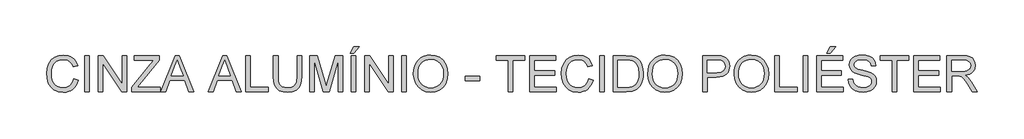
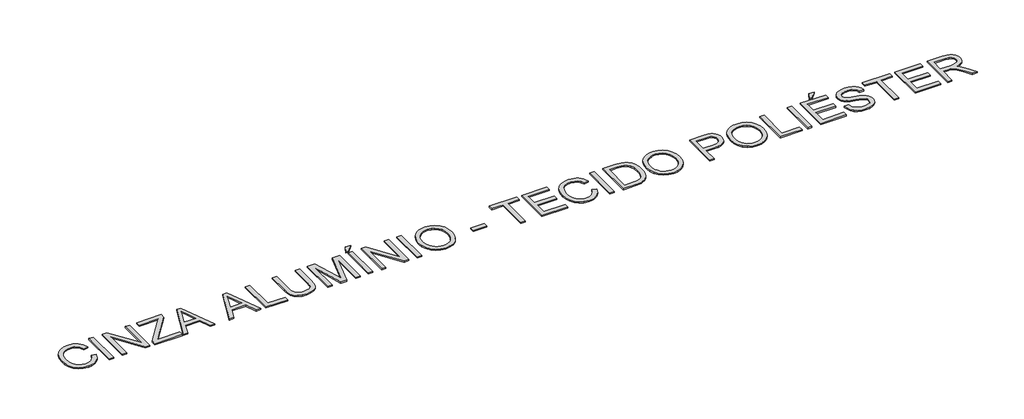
# One storey, part 44 of 67: 1 proxy.
"""IFC4 building model written with IfcOpenShell, lengths in millimetres."""

from ifc_helpers import new_model, si_unit, origin, origin_with_axes, place, context, project, spatial, polyline, outline, extrude, element, save

model = new_model("IFC4")

# Units and contexts
model_context = context("Model", 3, world=origin())
ifc_project = project(units=[si_unit("LENGTHUNIT", "METRE", prefix="MILLI")], contexts=[model_context])

# Site, building, storey
site = spatial("IfcSite", under=ifc_project)
building = spatial("IfcBuilding", under=site)
storey = spatial("IfcBuildingStorey", under=building, Name="Marelli - Linha COLAB - Planta Baixa", Elevation=0.0)

# Proxy
placement = place(None, origin())
element("IfcBuildingElementProxy", 1, Name="300mm Arial", ObjectType="300mm Arial", at=placement, inside=storey, context=model_context, shape_type="SweptSolid", body=[
    extrude(outline(polyline([(4910.271622, -62423.4390831), (4947.9427383, -62433.1511677), (4940.4885294, -62456.5783531), (4930.560314, -62477.0486868), (4918.1580922, -62494.5621691), (4903.2818641, -62509.1187997), (4886.2673218, -62520.5622291), (4867.4501577, -62528.7361071), (4846.8303719, -62533.640434), (4824.4079643, -62535.2752096), (4780.7127803, -62530.3271968), (4746.0123111, -62515.4831583), (4719.4144429, -62491.2581289), (4700.0270617, -62458.1671434), (4688.1904585, -62419.2636224), (4684.2449241, -62377.6009865), (4688.7054933, -62333.6574821), (4702.0872009, -62295.7104543), (4723.6910711, -62264.9647166), (4752.818128, -62242.6250824), (4787.3622474, -62229.0226457), (4825.2173047, -62224.4885001), (4866.5212557, -62230.3562179), (4884.4899919, -62237.6908652), (4900.6699019, -62247.9593714), (4914.7942713, -62260.8904235), (4926.5963855, -62276.2127086), (4943.2338487, -62314.0309777), (4905.5627324, -62323.0072984), (4892.5029216, -62295.5357104), (4874.6606448, -62276.6909552), (4851.8151729, -62265.7924511), (4823.7457767, -62262.1596164), (4791.3905552, -62266.1879242), (4764.8110811, -62278.2728478), (4744.6419507, -62297.1451941), (4731.5177605, -62321.5357704), (4724.3164705, -62349.1085259), (4721.9160404, -62377.5274101), (4724.7579289, -62412.3290468), (4733.2835941, -62442.421794), (4747.8149329, -62466.6560205), (4768.673842, -62483.8820949), (4793.6806207, -62494.1735937), (4820.6555679, -62497.6040933), (4852.1002815, -62492.931992), (4878.3026766, -62478.9156879), (4898.0855309, -62455.702334), (4910.271622, -62423.4390831)])), origin_with_axes(), (0.0, 0.0, 1.0), 10.0),
    extrude(outline(polyline([(5004.4494127, -62530.5663201), (5004.4494127, -62229.1973896), (5042.120529, -62229.1973896), (5042.120529, -62530.5663201), (5004.4494127, -62530.5663201)])), origin_with_axes(), (0.0, 0.0, 1.0), 10.0),
    extrude(outline(polyline([(5117.4627617, -62530.5663201), (5117.4627617, -62229.1973896), (5157.7826283, -62229.1973896), (5315.2361223, -62467.9528045), (5315.2361223, -62229.1973896), (5352.9072386, -62229.1973896), (5352.9072386, -62530.5663201), (5312.5873719, -62530.5663201), (5155.133878, -62291.7373288), (5155.133878, -62530.5663201), (5117.4627617, -62530.5663201)])), origin_with_axes(), (0.0, 0.0, 1.0), 10.0),
    extrude(outline(polyline([(5395.2872444, -62530.5663201), (5395.2872444, -62491.4972522), (5549.4298004, -62302.7737887), (5578.7132072, -62266.8685059), (5414.1228026, -62266.8685059), (5414.1228026, -62229.1973896), (5626.0228318, -62229.1973896), (5626.0228318, -62266.8685059), (5457.3121488, -62473.397458), (5441.4196466, -62492.8952038), (5630.7317213, -62492.8952038), (5630.7317213, -62530.5663201), (5395.2872444, -62530.5663201)])), origin_with_axes(), (0.0, 0.0, 1.0), 10.0),
    extrude(outline(polyline([(5638.0157848, -62530.5663201), (5758.3131973, -62229.1973896), (5790.3925072, -62229.1973896), (5910.6899197, -62530.5663201), (5870.8850878, -62530.5663201), (5836.3777566, -62436.3885293), (5712.2543715, -62436.3885293), (5677.8206167, -62530.5663201), (5638.0157848, -62530.5663201)]), holes=[polyline([(5726.0867345, -62398.717413), (5822.61897, -62398.717413), (5795.4692788, -62324.6259792), (5774.3528522, -62266.8685059), (5755.5908705, -62318.1512561), (5726.0867345, -62398.717413)])]), origin_with_axes(), (0.0, 0.0, 1.0), 10.0),
    extrude(outline(polyline([(6033.562506, -62530.5663201), (6153.8599185, -62229.1973896), (6185.9392284, -62229.1973896), (6306.2366409, -62530.5663201), (6266.431809, -62530.5663201), (6231.9244778, -62436.3885293), (6107.8010927, -62436.3885293), (6073.3673379, -62530.5663201), (6033.562506, -62530.5663201)]), holes=[polyline([(6121.6334557, -62398.717413), (6218.1656912, -62398.717413), (6191.016, -62324.6259792), (6169.8995735, -62266.8685059), (6151.1375917, -62318.1512561), (6121.6334557, -62398.717413)])]), origin_with_axes(), (0.0, 0.0, 1.0), 10.0),
    extrude(outline(polyline([(6346.4829311, -62530.5663201), (6346.4829311, -62229.1973896), (6384.1540475, -62229.1973896), (6384.1540475, -62492.8952038), (6534.8385127, -62492.8952038), (6534.8385127, -62530.5663201), (6346.4829311, -62530.5663201)])), origin_with_axes(), (0.0, 0.0, 1.0), 10.0),
    extrude(outline(polyline([(6774.9918791, -62229.1973896), (6812.6629954, -62229.1973896), (6812.6629954, -62403.0584205), (6810.1062156, -62443.7737604), (6802.435876, -62475.1265034), (6788.1068723, -62499.3147446), (6765.5741001, -62518.5365788), (6734.7823771, -62531.0905519), (6695.676521, -62535.2752096), (6657.4259905, -62531.6331779), (6626.8457997, -62520.7070826), (6603.9267514, -62502.8740029), (6588.6596486, -62478.5110178), (6580.078801, -62445.8338995), (6577.2185185, -62403.0584205), (6577.2185185, -62229.1973896), (6614.8896348, -62229.1973896), (6614.8896348, -62401.7340454), (6616.7474389, -62435.588386), (6622.3208511, -62459.1604248), (6632.4192119, -62475.4851883), (6647.8518616, -62487.597703), (6667.9750067, -62495.1024957), (6692.1448538, -62497.6040933), (6730.4597636, -62492.6560805), (6744.8025629, -62486.4710644), (6755.9355918, -62477.812042), (6764.2727175, -62465.6351479), (6770.2278073, -62448.8965171), (6774.9918791, -62401.7340454), (6774.9918791, -62229.1973896)])), origin_with_axes(), (0.0, 0.0, 1.0), 10.0),
    extrude(outline(polyline([(6878.587449, -62530.5663201), (6878.587449, -62229.1973896), (6943.4082565, -62229.1973896), (7005.0652789, -62441.6124536), (7017.4996903, -62485.9790223), (7030.9641714, -62437.9336337), (7091.5911242, -62229.1973896), (7156.4119317, -62229.1973896), (7156.4119317, -62530.5663201), (7118.7408154, -62530.5663201), (7118.7408154, -62266.8685059), (7043.0307008, -62530.5663201), (6991.9686799, -62530.5663201), (6916.2585653, -62266.8685059), (6916.2585653, -62530.5663201), (6878.587449, -62530.5663201)])), origin_with_axes(), (0.0, 0.0, 1.0), 10.0),
    extrude(outline(polyline([(7227.0452748, -62530.5663201), (7227.0452748, -62229.1973896), (7264.7163911, -62229.1973896), (7264.7163911, -62530.5663201), (7227.0452748, -62530.5663201)])), origin_with_axes(), (0.0, 0.0, 1.0), 10.0),
    extrude(outline(polyline([(7217.6274957, -62210.3618315), (7245.880833, -62153.855157), (7292.9697283, -62153.855157), (7245.880833, -62210.3618315), (7217.6274957, -62210.3618315)])), origin_with_axes(), (0.0, 0.0, 1.0), 10.0),
    extrude(outline(polyline([(7340.0586237, -62530.5663201), (7340.0586237, -62229.1973896), (7380.3784904, -62229.1973896), (7537.8319843, -62467.9528045), (7537.8319843, -62229.1973896), (7575.5031006, -62229.1973896), (7575.5031006, -62530.5663201), (7535.183234, -62530.5663201), (7377.72974, -62291.7373288), (7377.72974, -62530.5663201), (7340.0586237, -62530.5663201)])), origin_with_axes(), (0.0, 0.0, 1.0), 10.0),
    extrude(outline(polyline([(7646.1364437, -62530.5663201), (7646.1364437, -62229.1973896), (7683.80756, -62229.1973896), (7683.80756, -62530.5663201), (7646.1364437, -62530.5663201)])), origin_with_axes(), (0.0, 0.0, 1.0), 10.0),
    extrude(outline(polyline([(7745.023124, -62383.8549804), (7747.5339186, -62348.5061192), (7755.0663025, -62317.213157), (7767.6202756, -62289.9760937), (7785.1958379, -62266.7949295), (7806.7399272, -62248.2858666), (7831.1994814, -62235.0651074), (7858.5745003, -62227.1326519), (7888.8649841, -62224.4885001), (7928.3939045, -62229.454907), (7963.8393347, -62244.3541278), (7993.2698944, -62268.1376988), (8014.7542029, -62299.7571563), (8027.8875901, -62337.68579), (8032.2653858, -62380.3968896), (8027.6576639, -62423.6782064), (8013.8344979, -62462.140269), (7991.5592431, -62493.8149087), (7961.5952546, -62516.733957), (7926.453327, -62530.6398965), (7888.6442549, -62535.2752096), (7848.5083293, -62530.1524528), (7812.8605639, -62514.7841825), (7783.5035807, -62490.5591531), (7762.2400014, -62458.8661192), (7749.3273434, -62422.3998164), (7745.023124, -62383.8549804)]), holes=[polyline([(7782.6942403, -62384.2228624), (7784.5773363, -62409.1974513), (7790.2266242, -62431.3669401), (7799.642104, -62450.7313286), (7812.8237757, -62467.2906169), (7828.8473359, -62480.5527628), (7846.7884809, -62490.0257242), (7866.6472109, -62495.709501), (7888.4235257, -62497.6040933), (7910.5723211, -62495.6911069), (7930.6655758, -62489.9521478), (7948.7032899, -62480.3872159), (7964.6854633, -62466.9963113), (7977.770566, -62450.0875351), (7987.117068, -62429.9689885), (7992.7249691, -62406.6406715), (7994.5942695, -62380.102584), (7991.3936962, -62346.7540812), (7981.7919761, -62317.9305269), (7966.0374297, -62294.358488), (7944.3783772, -62276.7645316), (7918.2495585, -62265.8108452), (7889.0857133, -62262.1596164), (7868.0658558, -62263.9185522), (7848.5635116, -62269.1953595), (7830.5786805, -62277.9900385), (7814.1113627, -62290.302589), (7800.3663717, -62306.7262208), (7790.5485209, -62327.8541437), (7784.6578105, -62353.6863575), (7782.6942403, -62384.2228624)])]), origin_with_axes(), (0.0, 0.0, 1.0), 10.0),
    extrude(outline(polyline([(8178.2409615, -62441.0974188), (8178.2409615, -62403.4263025), (8295.9632, -62403.4263025), (8295.9632, -62441.0974188), (8178.2409615, -62441.0974188)])), origin_with_axes(), (0.0, 0.0, 1.0), 10.0),
    extrude(outline(polyline([(8536.1165664, -62530.5663201), (8536.1165664, -62266.8685059), (8437.2298861, -62266.8685059), (8437.2298861, -62229.1973896), (8672.674363, -62229.1973896), (8672.674363, -62266.8685059), (8573.7876827, -62266.8685059), (8573.7876827, -62530.5663201), (8536.1165664, -62530.5663201)])), origin_with_axes(), (0.0, 0.0, 1.0), 10.0),
    extrude(outline(polyline([(8715.0543689, -62530.5663201), (8715.0543689, -62229.1973896), (8931.6632877, -62229.1973896), (8931.6632877, -62266.8685059), (8752.7254852, -62266.8685059), (8752.7254852, -62356.3374072), (8922.2455086, -62356.3374072), (8922.2455086, -62394.0085235), (8752.7254852, -62394.0085235), (8752.7254852, -62492.8952038), (8936.3721772, -62492.8952038), (8936.3721772, -62530.5663201), (8715.0543689, -62530.5663201)])), origin_with_axes(), (0.0, 0.0, 1.0), 10.0),
    extrude(outline(polyline([(9204.7788809, -62423.4390831), (9242.4499972, -62433.1511677), (9234.9957882, -62456.5783531), (9225.0675729, -62477.0486868), (9212.6653511, -62494.5621691), (9197.789123, -62509.1187997), (9180.7745807, -62520.5622291), (9161.9574166, -62528.7361071), (9141.3376308, -62533.640434), (9118.9152232, -62535.2752096), (9075.2200392, -62530.3271968), (9040.51957, -62515.4831583), (9013.9217018, -62491.2581289), (8994.5343206, -62458.1671434), (8982.6977174, -62419.2636224), (8978.752183, -62377.6009865), (8983.2127522, -62333.6574821), (8996.5944598, -62295.7104543), (9018.19833, -62264.9647166), (9047.3253869, -62242.6250824), (9081.8695063, -62229.0226457), (9119.7245636, -62224.4885001), (9161.0285146, -62230.3562179), (9178.9972508, -62237.6908652), (9195.1771608, -62247.9593714), (9209.3015301, -62260.8904235), (9221.1036444, -62276.2127086), (9237.7411076, -62314.0309777), (9200.0699913, -62323.0072984), (9187.0101805, -62295.5357104), (9169.1679037, -62276.6909552), (9146.3224318, -62265.7924511), (9118.2530356, -62262.1596164), (9085.8978141, -62266.1879242), (9059.31834, -62278.2728478), (9039.1492096, -62297.1451941), (9026.0250194, -62321.5357704), (9018.8237294, -62349.1085259), (9016.4232993, -62377.5274101), (9019.2651878, -62412.3290468), (9027.790853, -62442.421794), (9042.3221918, -62466.6560205), (9063.1811009, -62483.8820949), (9088.1878795, -62494.1735937), (9115.1628268, -62497.6040933), (9146.6075404, -62492.931992), (9172.8099355, -62478.9156879), (9192.5927898, -62455.702334), (9204.7788809, -62423.4390831)])), origin_with_axes(), (0.0, 0.0, 1.0), 10.0),
    extrude(outline(polyline([(9298.9566716, -62530.5663201), (9298.9566716, -62229.1973896), (9336.6277879, -62229.1973896), (9336.6277879, -62530.5663201), (9298.9566716, -62530.5663201)])), origin_with_axes(), (0.0, 0.0, 1.0), 10.0),
    extrude(outline(polyline([(9411.9700206, -62530.5663201), (9411.9700206, -62229.1973896), (9515.9334724, -62229.1973896), (9569.7178201, -62233.5383972), (9593.7405144, -62241.9077126), (9614.0108123, -62255.0962821), (9634.8513273, -62278.0521186), (9649.6953658, -62306.5997614), (9658.579716, -62340.1873876), (9661.5411661, -62378.2631741), (9659.5362092, -62410.6091985), (9653.5213386, -62439.0740679), (9644.3610769, -62463.3082943), (9632.9199469, -62482.9623899), (9619.7497714, -62498.477813), (9605.4023736, -62510.2960221), (9588.9304573, -62519.0608107), (9569.3867263, -62525.4159721), (9520.9366675, -62530.5663201), (9411.9700206, -62530.5663201)]), holes=[polyline([(9449.6411369, -62492.8952038), (9516.3013544, -62492.8952038), (9543.8741099, -62491.5340404), (9564.7882014, -62487.4505502), (9580.5703389, -62480.8838566), (9592.747233, -62472.0730828), (9605.834635, -62455.7667134), (9615.6662813, -62434.6594839), (9621.8191077, -62408.6594239), (9623.8700498, -62377.6745629), (9619.850939, -62336.6189322), (9607.7936066, -62306.3054558), (9589.978921, -62285.4833349), (9568.6877505, -62272.9017706), (9547.019501, -62268.3768221), (9515.2712848, -62266.8685059), (9449.6411369, -62266.8685059), (9449.6411369, -62492.8952038)])]), origin_with_axes(), (0.0, 0.0, 1.0), 10.0),
    extrude(outline(polyline([(9699.2122824, -62383.8549804), (9701.723077, -62348.5061192), (9709.2554609, -62317.213157), (9721.8094339, -62289.9760937), (9739.3849963, -62266.7949295), (9760.9290856, -62248.2858666), (9785.3886398, -62235.0651074), (9812.7636587, -62227.1326519), (9843.0541425, -62224.4885001), (9882.5830629, -62229.454907), (9918.0284931, -62244.3541278), (9947.4590527, -62268.1376988), (9968.9433613, -62299.7571563), (9982.0767485, -62337.68579), (9986.4545442, -62380.3968896), (9981.8468222, -62423.6782064), (9968.0236563, -62462.140269), (9945.7484015, -62493.8149087), (9915.7844129, -62516.733957), (9880.6424854, -62530.6398965), (9842.8334133, -62535.2752096), (9802.6974876, -62530.1524528), (9767.0497223, -62514.7841825), (9737.6927391, -62490.5591531), (9716.4291598, -62458.8661192), (9703.5165017, -62422.3998164), (9699.2122824, -62383.8549804)]), holes=[polyline([(9736.8833987, -62384.2228624), (9738.7664947, -62409.1974513), (9744.4157825, -62431.3669401), (9753.8312624, -62450.7313286), (9767.0129341, -62467.2906169), (9783.0364943, -62480.5527628), (9800.9776393, -62490.0257242), (9820.8363693, -62495.709501), (9842.6126841, -62497.6040933), (9864.7614795, -62495.6911069), (9884.8547342, -62489.9521478), (9902.8924483, -62480.3872159), (9918.8746217, -62466.9963113), (9931.9597244, -62450.0875351), (9941.3062264, -62429.9689885), (9946.9141275, -62406.6406715), (9948.7834279, -62380.102584), (9945.5828546, -62346.7540812), (9935.9811345, -62317.9305269), (9920.226588, -62294.358488), (9898.5675356, -62276.7645316), (9872.4387169, -62265.8108452), (9843.2748717, -62262.1596164), (9822.2550142, -62263.9185522), (9802.7526699, -62269.1953595), (9784.7678389, -62277.9900385), (9768.3005211, -62290.302589), (9754.55553, -62306.7262208), (9744.7376793, -62327.8541437), (9738.8469688, -62353.6863575), (9736.8833987, -62384.2228624)])]), origin_with_axes(), (0.0, 0.0, 1.0), 10.0),
    extrude(outline(polyline([(10155.9745676, -62530.5663201), (10155.9745676, -62229.1973896), (10267.6635413, -62229.1973896), (10312.6922975, -62232.0668692), (10332.7694574, -62237.4287493), (10349.2965561, -62246.1567496), (10362.6046872, -62258.6463433), (10373.0249448, -62275.2930036), (10379.7571853, -62294.9287051), (10382.0012654, -62316.3854225), (10380.4860515, -62334.8852883), (10375.9404096, -62351.9044291), (10368.3643397, -62367.4428449), (10357.757842, -62381.5005356), (10343.1966127, -62393.1531978), (10323.7563485, -62401.476528), (10299.4370494, -62406.470526), (10270.2387153, -62408.1351921), (10193.6456839, -62408.1351921), (10193.6456839, -62530.5663201), (10155.9745676, -62530.5663201)]), holes=[polyline([(10193.6456839, -62370.4640758), (10272.4460073, -62370.4640758), (10305.8496924, -62367.005985), (10327.9226121, -62356.6317127), (10340.2282649, -62339.9850525), (10344.3301491, -62317.7097977), (10341.911325, -62300.7872259), (10334.6548527, -62286.5134045), (10323.462043, -62275.7712502), (10309.2342068, -62269.4436799), (10271.5630905, -62266.8685059), (10193.6456839, -62266.8685059), (10193.6456839, -62370.4640758)])]), origin_with_axes(), (0.0, 0.0, 1.0), 10.0),
    extrude(outline(polyline([(10419.6723817, -62383.8549804), (10422.1831764, -62348.5061192), (10429.7155602, -62317.213157), (10442.2695333, -62289.9760937), (10459.8450956, -62266.7949295), (10481.389185, -62248.2858666), (10505.8487391, -62235.0651074), (10533.2237581, -62227.1326519), (10563.5142419, -62224.4885001), (10603.0431622, -62229.454907), (10638.4885925, -62244.3541278), (10667.9191521, -62268.1376988), (10689.4034606, -62299.7571563), (10702.5368478, -62337.68579), (10706.9146436, -62380.3968896), (10702.3069216, -62423.6782064), (10688.4837556, -62462.140269), (10666.2085008, -62493.8149087), (10636.2445123, -62516.733957), (10601.1025847, -62530.6398965), (10563.2935127, -62535.2752096), (10523.157587, -62530.1524528), (10487.5098217, -62514.7841825), (10458.1528384, -62490.5591531), (10436.8892591, -62458.8661192), (10423.9766011, -62422.3998164), (10419.6723817, -62383.8549804)]), holes=[polyline([(10457.343498, -62384.2228624), (10459.226594, -62409.1974513), (10464.8758819, -62431.3669401), (10474.2913617, -62450.7313286), (10487.4730335, -62467.2906169), (10503.4965936, -62480.5527628), (10521.4377387, -62490.0257242), (10541.2964686, -62495.709501), (10563.0727835, -62497.6040933), (10585.2215788, -62495.6911069), (10605.3148336, -62489.9521478), (10623.3525476, -62480.3872159), (10639.3347211, -62466.9963113), (10652.4198238, -62450.0875351), (10661.7663257, -62429.9689885), (10667.3742269, -62406.6406715), (10669.2435273, -62380.102584), (10666.0429539, -62346.7540812), (10656.4412338, -62317.9305269), (10640.6866874, -62294.358488), (10619.0276349, -62276.7645316), (10592.8988162, -62265.8108452), (10563.7349711, -62262.1596164), (10542.7151136, -62263.9185522), (10523.2127693, -62269.1953595), (10505.2279382, -62277.9900385), (10488.7606204, -62290.302589), (10475.0156294, -62306.7262208), (10465.1977786, -62327.8541437), (10459.3070682, -62353.6863575), (10457.343498, -62384.2228624)])]), origin_with_axes(), (0.0, 0.0, 1.0), 10.0),
    extrude(outline(polyline([(10758.7124285, -62530.5663201), (10758.7124285, -62229.1973896), (10796.3835448, -62229.1973896), (10796.3835448, -62492.8952038), (10947.06801, -62492.8952038), (10947.06801, -62530.5663201), (10758.7124285, -62530.5663201)])), origin_with_axes(), (0.0, 0.0, 1.0), 10.0),
    extrude(outline(polyline([(10994.1569054, -62530.5663201), (10994.1569054, -62229.1973896), (11031.8280217, -62229.1973896), (11031.8280217, -62530.5663201), (10994.1569054, -62530.5663201)])), origin_with_axes(), (0.0, 0.0, 1.0), 10.0),
    extrude(outline(polyline([(11107.1702543, -62530.5663201), (11107.1702543, -62229.1973896), (11323.7791731, -62229.1973896), (11323.7791731, -62266.8685059), (11144.8413706, -62266.8685059), (11144.8413706, -62356.3374072), (11314.361394, -62356.3374072), (11314.361394, -62394.0085235), (11144.8413706, -62394.0085235), (11144.8413706, -62492.8952038), (11328.4880626, -62492.8952038), (11328.4880626, -62530.5663201), (11107.1702543, -62530.5663201)])), origin_with_axes(), (0.0, 0.0, 1.0), 10.0),
    extrude(outline(polyline([(11191.930266, -62210.3618315), (11220.1836032, -62153.855157), (11267.2724986, -62153.855157), (11220.1836032, -62210.3618315), (11191.930266, -62210.3618315)])), origin_with_axes(), (0.0, 0.0, 1.0), 10.0),
    extrude(outline(polyline([(11370.8680685, -62426.9707502), (11408.5391848, -62426.9707502), (11412.8617982, -62447.8756446), (11420.6792906, -62464.6786547), (11432.8745788, -62478.0143771), (11450.3305794, -62488.517408), (11471.6677351, -62495.332422), (11495.5064884, -62497.6040933), (11516.4941563, -62495.884245), (11534.8698619, -62490.7247), (11549.7598857, -62482.5577197), (11560.2905078, -62471.8155654), (11566.5536988, -62459.4823216), (11568.6414291, -62446.5420724), (11567.0779306, -62433.932917), (11562.3874352, -62423.0344129), (11552.8592915, -62413.7361954), (11536.7828483, -62405.9279001), (11481.9316428, -62391.5437141), (11445.9251925, -62382.0247675), (11422.8865826, -62372.9656733), (11404.1337979, -62360.2921386), (11390.8440608, -62344.9330653), (11382.9254009, -62327.2195472), (11380.2858475, -62307.4826782), (11383.5508003, -62285.4189555), (11393.3456584, -62264.845155), (11409.4129045, -62247.4075484), (11431.4950213, -62234.7524077), (11458.000919, -62227.054477), (11487.3395081, -62224.4885001), (11519.1245125, -62227.1740386), (11546.9363914, -62235.2306543), (11569.7818633, -62248.4928003), (11586.6676468, -62266.7949295), (11597.3546188, -62288.9966079), (11601.6036558, -62313.9574013), (11563.9325395, -62313.9574013), (11557.016358, -62291.4798114), (11542.5953838, -62275.2562154), (11520.0626116, -62265.4337661), (11488.8110361, -62262.1596164), (11456.8236966, -62265.3969779), (11434.8795356, -62275.1090626), (11422.1876068, -62289.4012781), (11417.9569639, -62306.3790322), (11420.9552021, -62320.8551887), (11429.9499169, -62332.4986539), (11451.2134962, -62342.9097143), (11491.4597865, -62353.541504), (11532.9936637, -62363.6398648), (11558.120004, -62372.4506385), (11579.5951155, -62386.1174547), (11594.5771097, -62402.9848441), (11603.3786865, -62422.868866), (11606.3125454, -62445.5855792), (11602.9372281, -62468.8081301), (11592.8112762, -62490.6511236), (11576.3485569, -62509.4498935), (11553.9629375, -62523.539774), (11527.0431725, -62532.3413507), (11496.9780164, -62535.2752096), (11460.0702553, -62532.1114244), (11429.6923995, -62522.620069), (11405.4949613, -62506.764355), (11387.1284527, -62484.5074943), (11375.3378347, -62457.3945912), (11370.8680685, -62426.9707502)])), origin_with_axes(), (0.0, 0.0, 1.0), 10.0),
    extrude(outline(polyline([(11738.1614525, -62530.5663201), (11738.1614525, -62266.8685059), (11639.2747722, -62266.8685059), (11639.2747722, -62229.1973896), (11874.7192491, -62229.1973896), (11874.7192491, -62266.8685059), (11775.8325688, -62266.8685059), (11775.8325688, -62530.5663201), (11738.1614525, -62530.5663201)])), origin_with_axes(), (0.0, 0.0, 1.0), 10.0),
    extrude(outline(polyline([(11917.0992549, -62530.5663201), (11917.0992549, -62229.1973896), (12133.7081737, -62229.1973896), (12133.7081737, -62266.8685059), (11954.7703712, -62266.8685059), (11954.7703712, -62356.3374072), (12124.2903946, -62356.3374072), (12124.2903946, -62394.0085235), (11954.7703712, -62394.0085235), (11954.7703712, -62492.8952038), (12138.4170632, -62492.8952038), (12138.4170632, -62530.5663201), (11917.0992549, -62530.5663201)])), origin_with_axes(), (0.0, 0.0, 1.0), 10.0),
    extrude(outline(polyline([(12194.9237377, -62530.5663201), (12194.9237377, -62229.1973896), (12324.786082, -62229.1973896), (12359.6888863, -62231.2299376), (12385.081941, -62237.3275817), (12403.6415876, -62248.5847708), (12418.0441677, -62266.0959537), (12427.2872029, -62287.8101885), (12430.3682146, -62311.6765329), (12425.2638519, -62341.3646099), (12409.9507638, -62365.9759154), (12398.3509847, -62376.0052983), (12383.9690979, -62384.0205273), (12346.8590017, -62394.0085235), (12368.2697338, -62410.1217548), (12398.8039394, -62448.8965171), (12449.0566199, -62530.5663201), (12405.2786625, -62530.5663201), (12366.0624418, -62468.0999573), (12337.7355282, -62426.750021), (12317.8331123, -62407.2154871), (12299.9172591, -62400.0417882), (12278.0650686, -62398.717413), (12232.594854, -62398.717413), (12232.594854, -62530.5663201), (12194.9237377, -62530.5663201)]), holes=[polyline([(12232.594854, -62361.0462967), (12316.9134073, -62361.0462967), (12341.1292396, -62359.7127245), (12359.9188125, -62355.7120078), (12374.0638752, -62348.7774322), (12384.346177, -62338.6422832), (12390.609368, -62326.3826157), (12392.6970983, -62313.0744845), (12388.7147757, -62294.6987789), (12376.7678079, -62279.8915286), (12356.2124014, -62270.1242616), (12326.4047627, -62266.8685059), (12232.594854, -62266.8685059), (12232.594854, -62361.0462967)])]), origin_with_axes(), (0.0, 0.0, 1.0), 10.0),
])

save(model, "model.ifc")
